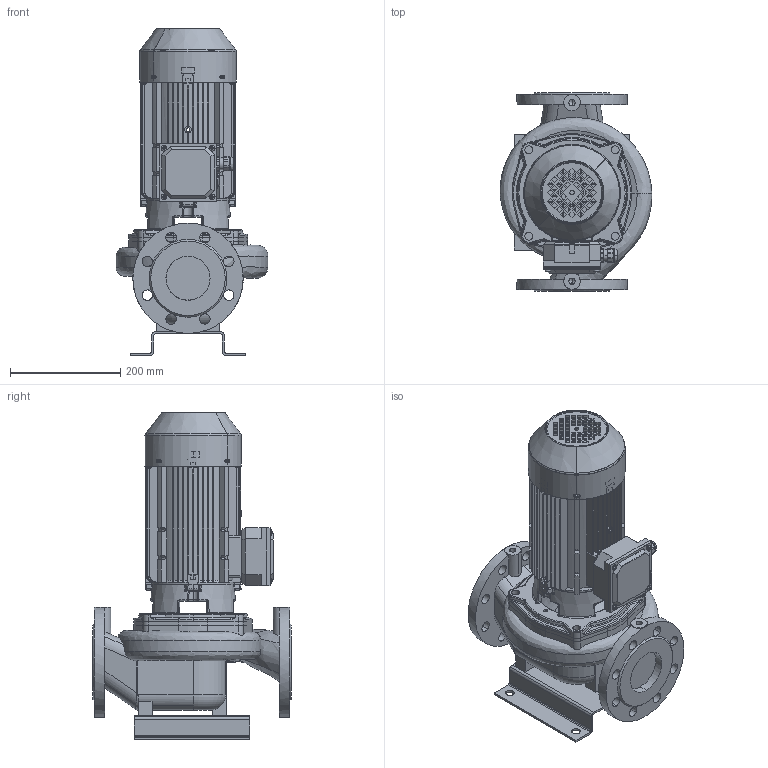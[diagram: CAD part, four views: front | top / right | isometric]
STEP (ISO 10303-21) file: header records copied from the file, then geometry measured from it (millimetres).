
FILE_DESCRIPTION(('STEP AP214'),'1');
FILE_NAME('export.stp','2018-05-29T07:05:45',(' '),(' '),'Spatial InterOp 3D',' ',' ');
FILE_SCHEMA(('AUTOMOTIVE_DESIGN { 1 0 10303 214 1 1 1 1 }'));
Length unit declared in the file: millimetre
Products named in the file (25): 160024; 160004_Valu; V_MKP90_1_F19; M5x8_DIN; DIN_7985-M5X8; 160141; M5x12_DIN; DIN_7985-M5X12; 160137; 160138; 160139; 160140; Koura_Ale_M5; Plug_Blind_M20; Sealing_Plug_M20; 160048___; 160068___; 160135; W_L80A2220KP90; V_TLL65AB80A1102; V_PPL80A; V_JALKA35973
Assembly tree (27 placements, depth 5):
  W_L80A2220KP90
    V_MKP90_1_F19
      160024
        160004_Valu
      160141
        M5x8_DIN
          DIN_7985-M5X8
        M5x12_DIN
          DIN_7985-M5X12
        M5x12_DIN
          DIN_7985-M5X12
        M5x12_DIN
          DIN_7985-M5X12
        M5x12_DIN
          DIN_7985-M5X12
        160137
        160138
        160139
        160140
        Koura_Ale_M5
        Plug_Blind_M20
        Sealing_Plug_M20
      160048___
      160068___
      160135
    V_TLL65AB80A1102
    V_PPL80A
    V_JALKA35973
Bounding box: 275.55 x 360 x 593 mm (x, y, z)
Volume: 8127064.7 mm3; surface area: 1521771.2 mm2
Topology: 20 solids, 20 shells, 2612 faces, 6981 edges, 4385 vertices
Faces by surface type: plane 1046, cylinder 822, bspline 280, torus 276, cone 151, sphere 37
Entity records: 102774 total; most frequent: CARTESIAN_POINT 36106, ORIENTED_EDGE 13518, DIRECTION 12485, EDGE_CURVE 6759, AXIS2_PLACEMENT_3D 4728, VERTEX_POINT 4289, LINE 3029, VECTOR 3029
